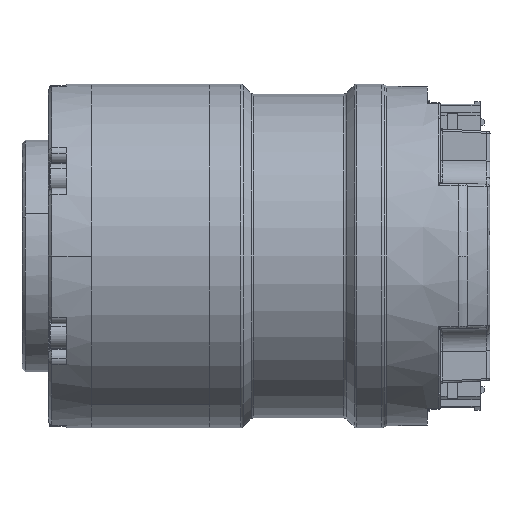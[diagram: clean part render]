
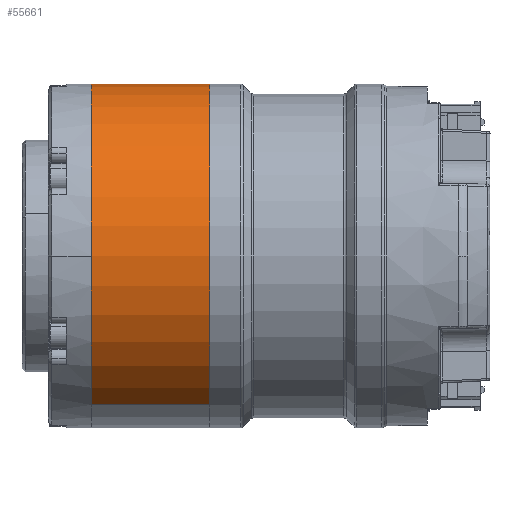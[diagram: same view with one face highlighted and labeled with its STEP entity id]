
A CAD part, left-side view. The second image highlights one B-rep face of the part: STEP entity #55661.
In plain terms, the highlighted cylindrical face has radius 26 mm (diameter 52 mm), a partial arc.
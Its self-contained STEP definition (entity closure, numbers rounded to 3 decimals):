
#139 = EDGE_CURVE ( 'NONE', #48379, #25982, #48078, .T. ) ;
#3240 = EDGE_LOOP ( 'NONE', ( #18764, #26437, #26489, #3317 ) ) ;
#3317 = ORIENTED_EDGE ( 'NONE', *, *, #51028, .F. ) ;
#4395 = DIRECTION ( 'NONE',  ( 0.5, 0., 0.866 ) ) ;
#7823 = DIRECTION ( 'NONE',  ( 0., 1., 0. ) ) ;
#10852 = DIRECTION ( 'NONE',  ( 0.5, 0., 0.866 ) ) ;
#13673 = AXIS2_PLACEMENT_3D ( 'NONE', #21954, #20943, #4395 ) ;
#14098 = CARTESIAN_POINT ( 'NONE',  ( 0., -4.5, 0. ) ) ;
#17421 = CIRCLE ( 'NONE', #23903, 26. ) ;
#18764 = ORIENTED_EDGE ( 'NONE', *, *, #139, .F. ) ;
#19455 = CARTESIAN_POINT ( 'NONE',  ( 13., -4.5, 22.517 ) ) ;
#20349 = DIRECTION ( 'NONE',  ( 0.5, 0., 0.866 ) ) ;
#20943 = DIRECTION ( 'NONE',  ( 0., 1., 0. ) ) ;
#21954 = CARTESIAN_POINT ( 'NONE',  ( 0., 13.4, 0. ) ) ;
#23903 = AXIS2_PLACEMENT_3D ( 'NONE', #14098, #7823, #20349 ) ;
#24464 = CARTESIAN_POINT ( 'NONE',  ( -13., 13.4, -22.517 ) ) ;
#25518 = VECTOR ( 'NONE', #52676, 1000. ) ;
#25982 = VERTEX_POINT ( 'NONE', #74156 ) ;
#26437 = ORIENTED_EDGE ( 'NONE', *, *, #47367, .T. ) ;
#26489 = ORIENTED_EDGE ( 'NONE', *, *, #58063, .T. ) ;
#28654 = CARTESIAN_POINT ( 'NONE',  ( 0., 13.4, 0. ) ) ;
#33511 = CARTESIAN_POINT ( 'NONE',  ( 13., 13.4, 22.517 ) ) ;
#44868 = CYLINDRICAL_SURFACE ( 'NONE', #63836, 26. ) ;
#45277 = DIRECTION ( 'NONE',  ( 0., 1., 0. ) ) ;
#47367 = EDGE_CURVE ( 'NONE', #48379, #53934, #17421, .T. ) ;
#48078 = LINE ( 'NONE', #24464, #25518 ) ;
#48379 = VERTEX_POINT ( 'NONE', #74522 ) ;
#49090 = VECTOR ( 'NONE', #67722, 1000. ) ;
#50793 = VERTEX_POINT ( 'NONE', #69826 ) ;
#51028 = EDGE_CURVE ( 'NONE', #25982, #50793, #51394, .T. ) ;
#51394 = CIRCLE ( 'NONE', #13673, 26. ) ;
#52676 = DIRECTION ( 'NONE',  ( 0., 1., 0. ) ) ;
#53934 = VERTEX_POINT ( 'NONE', #19455 ) ;
#55661 = ADVANCED_FACE ( 'NONE', ( #58381 ), #44868, .T. ) ;
#58063 = EDGE_CURVE ( 'NONE', #53934, #50793, #64388, .T. ) ;
#58381 = FACE_OUTER_BOUND ( 'NONE', #3240, .T. ) ;
#63836 = AXIS2_PLACEMENT_3D ( 'NONE', #28654, #45277, #10852 ) ;
#64388 = LINE ( 'NONE', #33511, #49090 ) ;
#67722 = DIRECTION ( 'NONE',  ( 0., 1., 0. ) ) ;
#69826 = CARTESIAN_POINT ( 'NONE',  ( 13., 13.4, 22.517 ) ) ;
#74156 = CARTESIAN_POINT ( 'NONE',  ( -13., 13.4, -22.517 ) ) ;
#74522 = CARTESIAN_POINT ( 'NONE',  ( -13., -4.5, -22.517 ) ) ;
